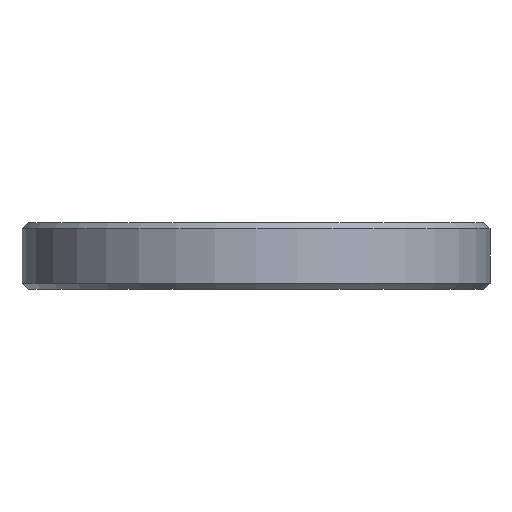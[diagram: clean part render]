
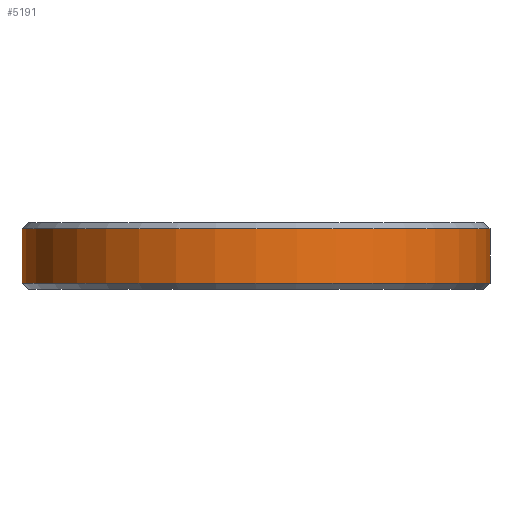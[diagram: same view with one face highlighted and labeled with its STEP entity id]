
A CAD part, front view. The second image highlights one B-rep face of the part: STEP entity #5191.
In plain terms, the highlighted cylindrical face has radius 10.938 mm (diameter 21.875 mm), a full revolution.
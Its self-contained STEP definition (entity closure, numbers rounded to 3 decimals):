
#23=CYLINDRICAL_SURFACE('',#5470,10.938);
#40=CIRCLE('',#5465,10.938);
#44=CIRCLE('',#5471,10.938);
#304=FACE_OUTER_BOUND('',#566,.T.);
#566=EDGE_LOOP('',(#4400,#4401,#4402,#4403));
#1293=LINE('',#8175,#2004);
#2004=VECTOR('',#6698,10.938);
#2480=VERTEX_POINT('',#8158);
#2486=VERTEX_POINT('',#8173);
#3196=EDGE_CURVE('',#2480,#2480,#40,.T.);
#3203=EDGE_CURVE('',#2486,#2486,#44,.T.);
#3204=EDGE_CURVE('',#2486,#2480,#1293,.T.);
#4400=ORIENTED_EDGE('',*,*,#3203,.F.);
#4401=ORIENTED_EDGE('',*,*,#3204,.T.);
#4402=ORIENTED_EDGE('',*,*,#3196,.F.);
#4403=ORIENTED_EDGE('',*,*,#3204,.F.);
#5191=ADVANCED_FACE('',(#304),#23,.T.);
#5465=AXIS2_PLACEMENT_3D('',#8159,#6681,#6682);
#5470=AXIS2_PLACEMENT_3D('',#8172,#6694,#6695);
#5471=AXIS2_PLACEMENT_3D('',#8174,#6696,#6697);
#6681=DIRECTION('center_axis',(0.,0.,-1.));
#6682=DIRECTION('ref_axis',(1.,0.,0.));
#6694=DIRECTION('center_axis',(0.,0.,1.));
#6695=DIRECTION('ref_axis',(1.,0.,0.));
#6696=DIRECTION('center_axis',(0.,0.,1.));
#6697=DIRECTION('ref_axis',(1.,0.,0.));
#6698=DIRECTION('',(0.,0.,-1.));
#8158=CARTESIAN_POINT('',(-10.938,0.,0.3));
#8159=CARTESIAN_POINT('Origin',(0.,0.,0.3));
#8172=CARTESIAN_POINT('Origin',(0.,0.,0.));
#8173=CARTESIAN_POINT('',(-10.938,0.,2.825));
#8174=CARTESIAN_POINT('Origin',(0.,0.,2.825));
#8175=CARTESIAN_POINT('',(-10.938,0.,0.));
